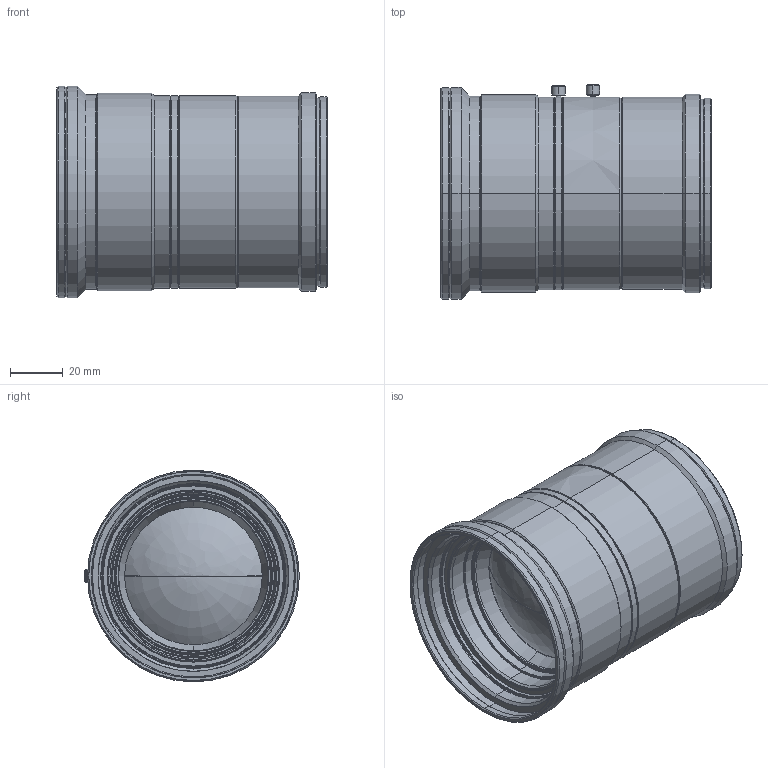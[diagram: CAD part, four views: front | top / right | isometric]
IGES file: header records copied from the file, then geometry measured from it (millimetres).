
Start section: SolidWorks IGES file using analytic representation for surfaces
Bounding box: 102.2 x 81.05 x 80 mm (x, y, z)
Surface area: 57429.2 mm2 (no closed solid volume)
Topology: 0 solids, 0 shells, 237 faces, 5012 edges, 5010 vertices
Faces by surface type: revolution 202, bspline 35
